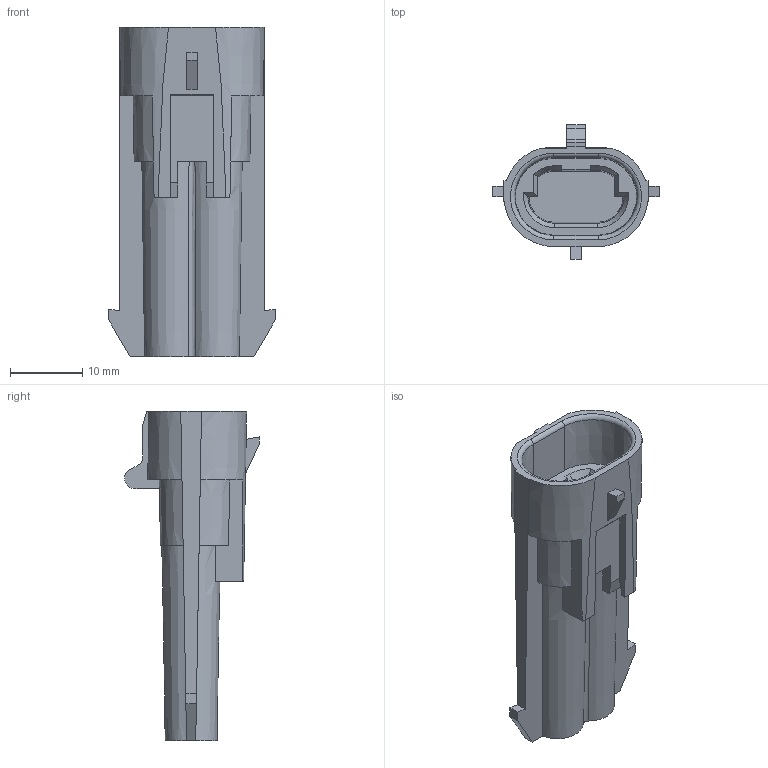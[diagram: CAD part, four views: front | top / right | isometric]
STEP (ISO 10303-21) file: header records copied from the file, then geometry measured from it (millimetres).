
FILE_DESCRIPTION(/* description */ (''),/* implementation_level */ '2;1');
FILE_NAME(/* name */ '12162343-ENV11_03-CONN.stp',/* time_stamp */ '2021-09-06T16:05:19+06:00',/* author */ (''),/* organization */ (''),/* preprocessor_version */ 'ST-DEVELOPER v16',/* originating_system */ 'SIEMENS PLM Software NX 11.0',/* authorisation */ '');
FILE_SCHEMA (('AP203_CONFIGURATION_CONTROLLED_3D_DESIGN_OF_MECHANICAL_PARTS_AND_ASSEMBLIES_MIM_LF { 1 0 10303 403 2 1 2}'));
Length unit declared in the file: millimetre
Products named in the file (1): hjcv4A68214C0bar
Bounding box: 23 x 18.54 x 45.5 mm (x, y, z)
Volume: 4421.2 mm3; surface area: 3718.5 mm2
Topology: 1 solids, 1 shells, 109 faces, 296 edges, 192 vertices
Faces by surface type: plane 77, cone 22, cylinder 6, bspline 2, torus 2
Entity records: 3624 total; most frequent: CARTESIAN_POINT 776, ORIENTED_EDGE 592, DIRECTION 552, EDGE_CURVE 296, LINE 196, VECTOR 196, VERTEX_POINT 192, AXIS2_PLACEMENT_3D 178
